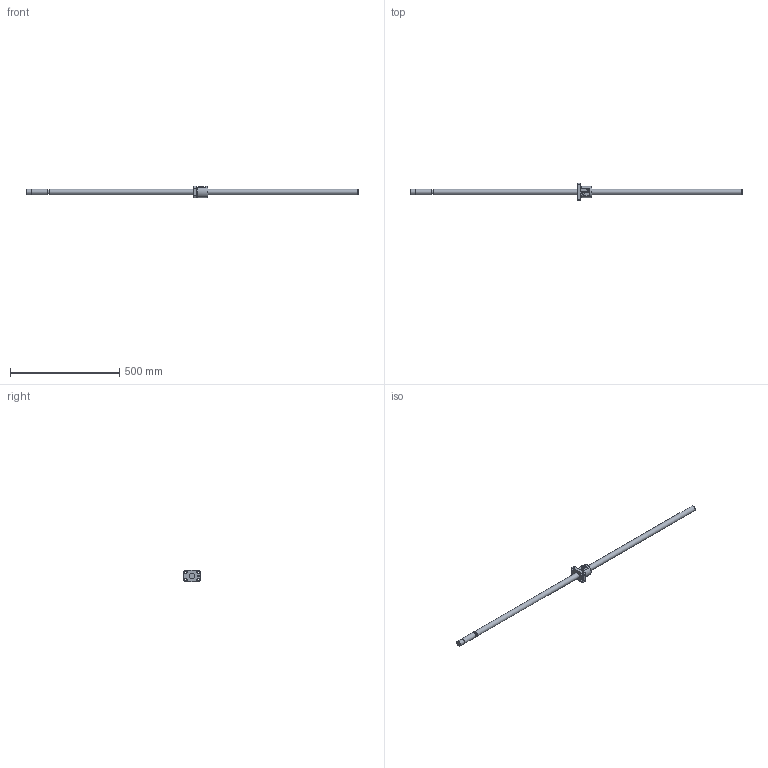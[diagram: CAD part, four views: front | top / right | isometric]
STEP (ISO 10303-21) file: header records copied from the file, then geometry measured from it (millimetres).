
FILE_DESCRIPTION((''),'2;1');
FILE_NAME('D:\製品 (図面)\カタログ用3D\ネジ関連\STEP形式\KBS(C)\KBS(C)2510-1520.stp','2010-06-02T14:20:25',('Tsuchiya'),(''),'Autodesk Inventor 10','Autodesk Inventor 10','');
FILE_SCHEMA(('AUTOMOTIVE_DESIGN { 1 0 10303 214 1 1 1 1 }'));
Length unit declared in the file: millimetre
Products named in the file (3): KBS(C)2510-1520; KBS(C)2510-15201; KBS(C)2510-15202
Assembly tree (2 placements, depth 2):
  KBS(C)2510-1520
    KBS(C)2510-15201
    KBS(C)2510-15202
Bounding box: 1520 x 78 x 52 mm (x, y, z)
Volume: 865606.5 mm3; surface area: 147387.2 mm2
Topology: 2 solids, 2 shells, 104 faces, 261 edges, 171 vertices
Faces by surface type: plane 42, cylinder 35, bspline 20, cone 5, torus 2
Full cylindrical faces by diameter (mm): 4.8 x1, 6 x1, 7.4 x1, 9 x4, 14 x4, 21 x1, 24.5 x1, 25 x3, 27 x2, 52 x1
Entity records: 3327 total; most frequent: CARTESIAN_POINT 939, DIRECTION 452, ORIENTED_EDGE 450, EDGE_CURVE 225, AXIS2_PLACEMENT_3D 170, VERTEX_POINT 165, EDGE_LOOP 160, VECTOR 112
